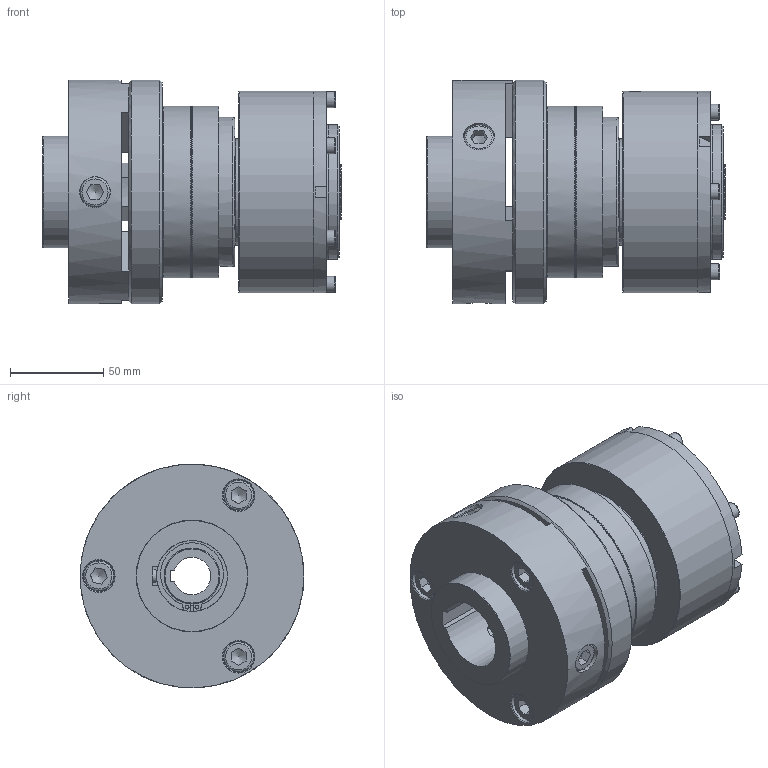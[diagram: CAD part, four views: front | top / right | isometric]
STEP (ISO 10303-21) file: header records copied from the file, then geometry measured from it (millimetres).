
FILE_DESCRIPTION(/* description */ (''),/* implementation_level */ '2;1');
FILE_NAME(/* name */ 'X:\INVENTOR\DISEGNI\03_Friz_Oleod_Pneum_Cil_Stat\03_62 DPG-N\03_62_00_01 DPG-N00\03_62_00_01 DPG-N00@STEP.stp',/* time_stamp */ '2017-05-24T12:21:02+02:00',/* author */ ('stefano'),/* organization */ (''),/* preprocessor_version */ 'ST-DEVELOPER v16.1',/* originating_system */ 'Autodesk Inventor 2016',/* authorisation */ '');
FILE_SCHEMA (('CONFIG_CONTROL_DESIGN'));
Products named in the file (1): 03_62_00_01 DPG-N00_Substitute_1
Bounding box: 160 x 120 x 120 mm (x, y, z)
Volume: 1019614.7 mm3; surface area: 223087.2 mm2
Topology: 1 solids, 1 shells, 3399 faces, 10957 edges, 6692 vertices
Faces by surface type: plane 1990, cylinder 1179, torus 121, cone 81, sphere 28
Full cylindrical faces by diameter (mm): 2 x4, 2.5 x2, 4.917 x3, 5.25 x3, 6 x1, 6.5 x3, 7.5 x12, 8.376 x6, 8.5 x6, 8.566 x1, 10.5 x3, 16 x6, 16.5 x6, 28.6 x2, 30 x6, 38 x3, 39 x1, 40.24 x2, 41 x1, 47 x3, 47.5 x1, 49.5 x1, 50 x1, 51.76 x2, 52 x1, 55 x3, 57 x2, 58 x1, 59.6 x2, 60 x3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
Entity records: 130350 total; most frequent: CARTESIAN_POINT 25210, DIRECTION 24883, ORIENTED_EDGE 21284, AXIS2_PLACEMENT_3D 11325, EDGE_CURVE 10642, VERTEX_POINT 6576, ELLIPSE 4403, EDGE_LOOP 3694
